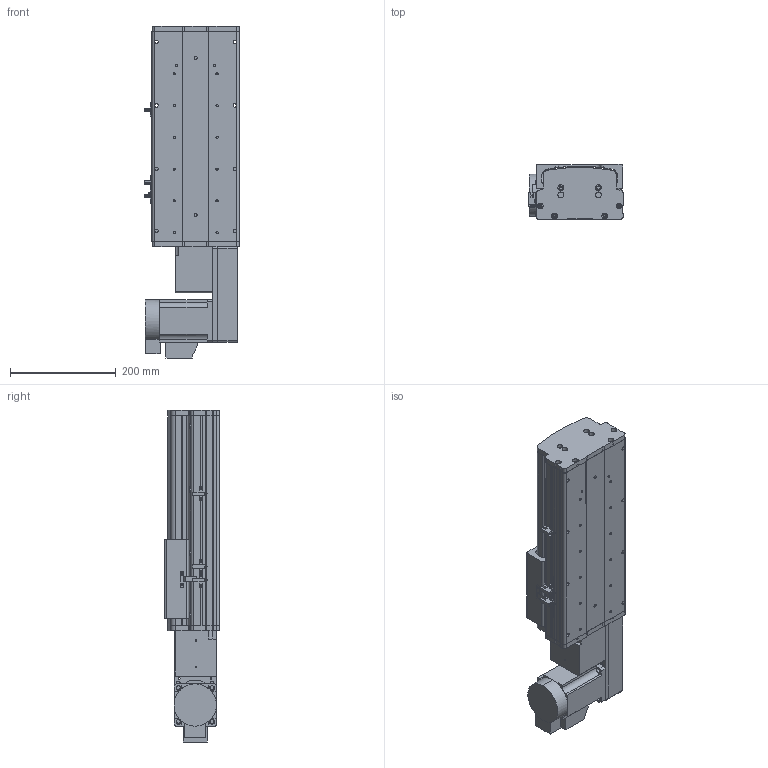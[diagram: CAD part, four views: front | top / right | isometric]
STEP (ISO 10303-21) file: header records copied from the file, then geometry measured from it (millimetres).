
FILE_DESCRIPTION (( 'STEP AP214' ), '1' );
FILE_NAME ('KSD165B-S150-MRB-CM .STEP', '2017-10-16T08:35:35', ( '微软用户' ), ( '微软中国' ), 'SwSTEP 2.0', 'SolidWorks 2014', '' );
FILE_SCHEMA (( 'AUTOMOTIVE_DESIGN' ));
Length unit declared in the file: millimetre
Products named in the file (18): KSD165耀郪-ヶ傷啣1-肮祭湍; KSD165模组-后端板1-同步带; KSD165模组-同步带滑动座-最新版; KSD165B-S150-MRB-CM ; HTPA26S5M250-A-H8 750W萇儂蚚; HTPA26S5M250-A-H8 400W萇儂蚚 ; 130宽模组马达安装板连板左右折同步带; 130宽模组保护罩上下左右折-同步带; KSD165模组-同步带防尘盖1-150行程-最新版; KSD165模组同步带底板-150行程-最新; 拸秶雄ん750W侜督萇儂; 165宽马达安装板同步带右; U倰嫖萇假蚾璃; U倰嫖萇EEㄜSX672; 覜茼え68遵圉猾敕; KSD165模组-同步带-防撞垫2; KSD165模组同步带-防撞垫1; TBCKrack_S8M400_TBCKrack-S8M400
Assembly tree (21 placements, depth 2):
  KSD165B-S150-MRB-CM 
    KSD165模组-同步带滑动座-最新版
    KSD165模组-后端板1-同步带
    KSD165耀郪-ヶ傷啣1-肮祭湍
    TBCKrack_S8M400_TBCKrack-S8M400
    KSD165模组同步带-防撞垫1
    KSD165模组-同步带-防撞垫2
    覜茼え68遵圉猾敕
    U倰嫖萇EEㄜSX672  x3
    U倰嫖萇假蚾璃  x3
    165宽马达安装板同步带右
    拸秶雄ん750W侜督萇儂
    KSD165模组同步带底板-150行程-最新
    KSD165模组-同步带防尘盖1-150行程-最新版
    130宽模组保护罩上下左右折-同步带
    130宽模组马达安装板连板左右折同步带
    HTPA26S5M250-A-H8 400W萇儂蚚 
    HTPA26S5M250-A-H8 750W萇儂蚚
Bounding box: 178.7 x 104 x 627.5 mm (x, y, z)
Volume: 4089052.9 mm3; surface area: 942778.6 mm2
Topology: 22 solids, 22 shells, 1907 faces, 5382 edges, 3512 vertices
Faces by surface type: cylinder 1205, plane 590, cone 112
Entity records: 61204 total; most frequent: CARTESIAN_POINT 12679, DIRECTION 10100, ORIENTED_EDGE 9424, EDGE_CURVE 4712, AXIS2_PLACEMENT_3D 3939, VERTEX_POINT 3104, CIRCLE 2228, LINE 2222
